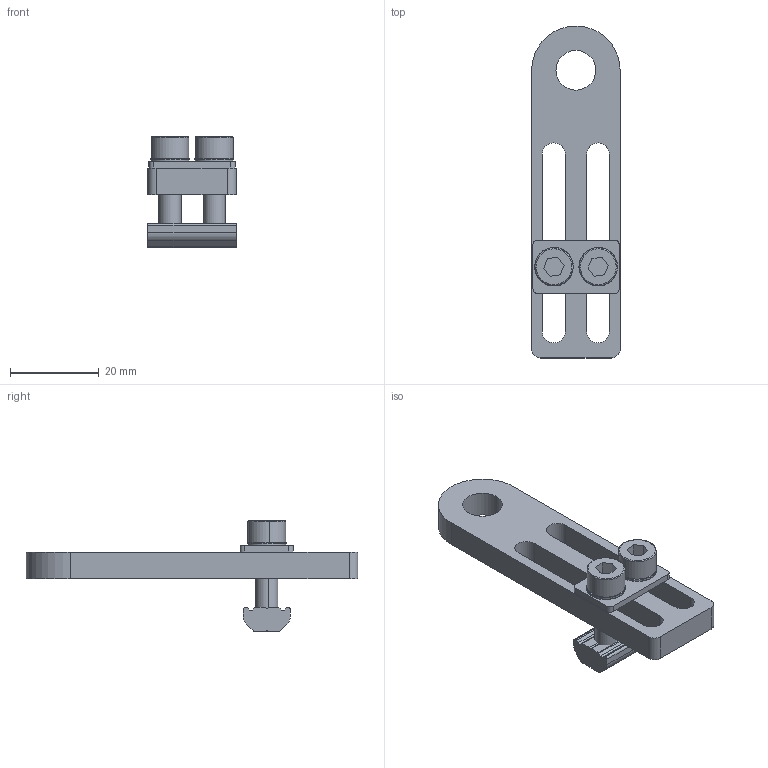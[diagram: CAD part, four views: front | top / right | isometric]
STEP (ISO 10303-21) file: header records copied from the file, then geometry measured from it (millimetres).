
FILE_DESCRIPTION (( 'STEP AP214' ), '1' );
FILE_NAME ('SMBE5-M1040.STEP', '2019-11-06T01:21:07', ( '微软用户' ), ( '微软中国' ), 'SwSTEP 2.0', 'SolidWorks 2016', '' );
FILE_SCHEMA (( 'AUTOMOTIVE_DESIGN' ));
Length unit declared in the file: millimetre
Products named in the file (1): SMBE5-M1040
Bounding box: 20.05 x 75 x 25 mm (x, y, z)
Volume: 8010.1 mm3; surface area: 7003.4 mm2
Topology: 7 solids, 7 shells, 511 faces, 1482 edges, 981 vertices
Faces by surface type: plane 447, cylinder 56, cone 4, bspline 4
Entity records: 23016 total; most frequent: CARTESIAN_POINT 3437, ORIENTED_EDGE 2964, DIRECTION 2937, EDGE_CURVE 1482, AXIS2_PLACEMENT_3D 987, VERTEX_POINT 981, VECTOR 963, LINE 963
